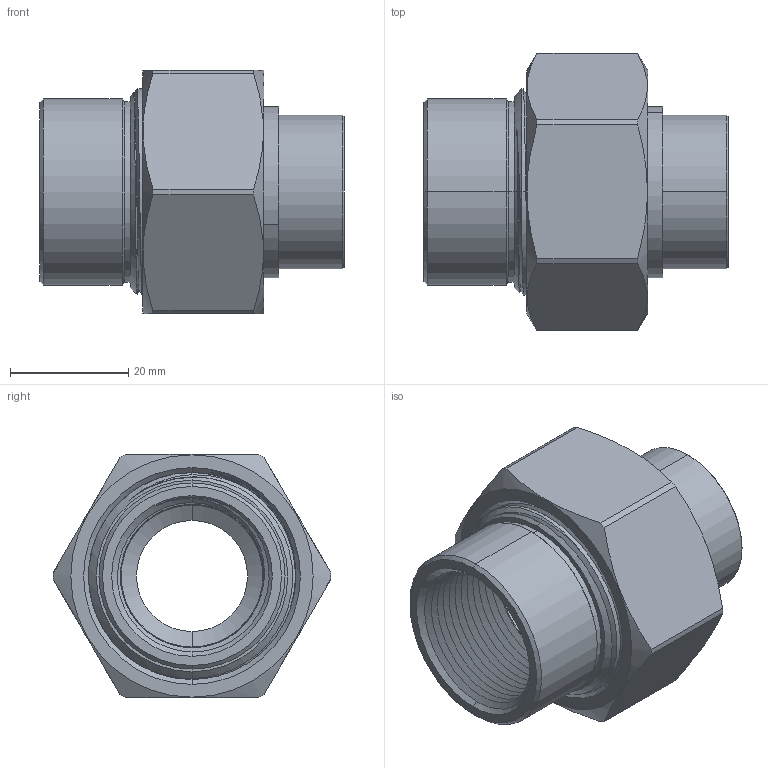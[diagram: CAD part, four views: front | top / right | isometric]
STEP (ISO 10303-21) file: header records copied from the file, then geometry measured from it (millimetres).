
FILE_DESCRIPTION(('Open CASCADE Model'),'2;1');
FILE_NAME('Open CASCADE Shape Model','2022-03-21T11:44:55',('Author'),( 'Open CASCADE'),'Open CASCADE STEP processor 7.3','Open CASCADE 7.3' ,'Unknown');
FILE_SCHEMA(('AUTOMOTIVE_DESIGN { 1 0 10303 214 1 1 1 1 }'));
Length unit declared in the file: millimetre
Products named in the file (6): Open CASCADE STEP translator 7.3 1; Open CASCADE STEP translator 7.3 1.1; Open CASCADE STEP translator 7.3 1.2; Open CASCADE STEP translator 7.3 1.3; Open CASCADE STEP translator 7.3 1.4; Open CASCADE STEP translator 7.3 1.5
Assembly tree (5 placements, depth 2):
  Open CASCADE STEP translator 7.3 1
    Open CASCADE STEP translator 7.3 1.1
    Open CASCADE STEP translator 7.3 1.2
    Open CASCADE STEP translator 7.3 1.3
    Open CASCADE STEP translator 7.3 1.4
    Open CASCADE STEP translator 7.3 1.5
Bounding box: 51.5 x 47 x 41.2 mm (x, y, z)
Volume: 28147.4 mm3; surface area: 23332.7 mm2
Topology: 5 solids, 5 shells, 134 faces, 320 edges, 203 vertices
Faces by surface type: cylinder 62, cone 38, plane 25, bspline 7, torus 2
Entity records: 15899 total; most frequent: CARTESIAN_POINT 9793, DIRECTION 1031, ORIENTED_EDGE 640, PCURVE 640, DEFINITIONAL_REPRESENTATION 640, LINE 495, VECTOR 495, EDGE_CURVE 320
